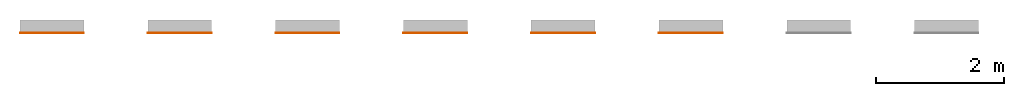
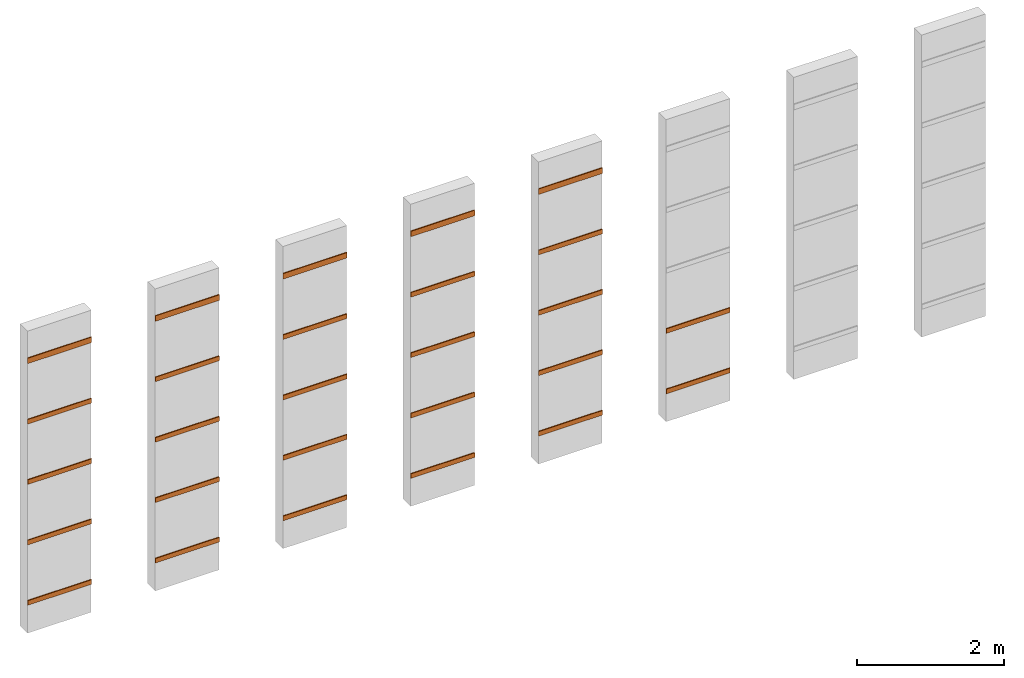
# One storey, part 2 of 4: 27 proxies.
"""IFC2X3 building model written with IfcOpenShell, lengths in millimetres."""

from ifc_helpers import new_model, entity, si_unit, converted_unit, derived_unit, direction, frame, frame_2d, origin, place, context, subcontext, project, spatial, polyline, circle_curve, parameter, trimmed, segment, composite_curve, outline, extrude, type_object, element, save


model = new_model("IFC2X3")

# Units and contexts
model_context = context("Model", 3, precision=0.01, world=origin(), true_north=direction((6.12303176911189e-17, 1.0)))
body_context = subcontext(model_context, "Body", "Model", "MODEL_VIEW")
ifc_project = project(units=[si_unit("LENGTHUNIT", "METRE", prefix="MILLI"), si_unit("AREAUNIT", "SQUARE_METRE"), si_unit("VOLUMEUNIT", "CUBIC_METRE"), converted_unit("PLANEANGLEUNIT", "DEGREE", entity("IfcRatioMeasure", 0.0174532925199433), si_unit("PLANEANGLEUNIT", "RADIAN"), dimensions=[0, 0, 0, 0, 0, 0, 0]), si_unit("MASSUNIT", "GRAM", prefix="KILO"), derived_unit("MASSDENSITYUNIT", [(si_unit("MASSUNIT", "GRAM", prefix="KILO"), 1), (si_unit("LENGTHUNIT", "METRE"), -3)]), derived_unit("MOMENTOFINERTIAUNIT", [(si_unit("LENGTHUNIT", "METRE"), 4)]), si_unit("TIMEUNIT", "SECOND"), si_unit("FREQUENCYUNIT", "HERTZ"), si_unit("THERMODYNAMICTEMPERATUREUNIT", "DEGREE_CELSIUS"), derived_unit("THERMALTRANSMITTANCEUNIT", [(si_unit("MASSUNIT", "GRAM", prefix="KILO"), 1), (si_unit("THERMODYNAMICTEMPERATUREUNIT", "KELVIN"), -1), (si_unit("TIMEUNIT", "SECOND"), -3)]), derived_unit("VOLUMETRICFLOWRATEUNIT", [(si_unit("LENGTHUNIT", "METRE"), 3), (si_unit("TIMEUNIT", "SECOND"), -1)]), si_unit("ELECTRICCURRENTUNIT", "AMPERE"), si_unit("ELECTRICVOLTAGEUNIT", "VOLT"), si_unit("POWERUNIT", "WATT"), si_unit("FORCEUNIT", "NEWTON", prefix="KILO"), si_unit("ILLUMINANCEUNIT", "LUX"), si_unit("LUMINOUSFLUXUNIT", "LUMEN"), si_unit("LUMINOUSINTENSITYUNIT", "CANDELA"), derived_unit("USERDEFINED", [(si_unit("MASSUNIT", "GRAM", prefix="KILO"), -1), (si_unit("LENGTHUNIT", "METRE"), -2), (si_unit("TIMEUNIT", "SECOND"), 3), (si_unit("LUMINOUSFLUXUNIT", "LUMEN"), 1)]), derived_unit("LINEARVELOCITYUNIT", [(si_unit("LENGTHUNIT", "METRE"), 1), (si_unit("TIMEUNIT", "SECOND"), -1)]), si_unit("PRESSUREUNIT", "PASCAL"), derived_unit("USERDEFINED", [(si_unit("LENGTHUNIT", "METRE"), -2), (si_unit("MASSUNIT", "GRAM", prefix="KILO"), 1), (si_unit("TIMEUNIT", "SECOND"), -2)]), derived_unit("LINEARFORCEUNIT", [(si_unit("MASSUNIT", "GRAM", prefix="KILO"), 1), (si_unit("LENGTHUNIT", "METRE"), 1), (si_unit("TIMEUNIT", "SECOND"), -2), (si_unit("LENGTHUNIT", "METRE"), -1)]), derived_unit("PLANARFORCEUNIT", [(si_unit("MASSUNIT", "GRAM", prefix="KILO"), 1), (si_unit("LENGTHUNIT", "METRE"), 1), (si_unit("TIMEUNIT", "SECOND"), -2), (si_unit("LENGTHUNIT", "METRE"), -2)])], contexts=[model_context])

# Site, building, storey
site_placement = place(None, origin())
site = spatial("IfcSite", under=ifc_project, at=site_placement, Name="Default", CompositionType="ELEMENT")
building_placement = place(site_placement, origin())
building = spatial("IfcBuilding", under=site, at=building_placement, CompositionType="ELEMENT")
storey_placement = place(building_placement, origin())
storey = spatial("IfcBuildingStorey", under=building, at=storey_placement, Name="Level 1", CompositionType="ELEMENT", Elevation=0.0)

# Proxies
building_element_proxy_type_1 = type_object("IfcBuildingElementProxyType", Name="Wall Sweep:REVIGRÉS-OMNISTONE-RB-8X45-MATTRECT-BONE", PredefinedType="NOTDEFINED")
proxy_1_placement = place(storey_placement, origin())
element("IfcBuildingElementProxy", 1, at=proxy_1_placement, inside=storey, type_object=building_element_proxy_type_1, Name="Wall Sweep:REVIGRÉS-OMNISTONE-RB-8X45-MATTRECT-BONE", ObjectType="Wall Sweep:REVIGRÉS-OMNISTONE-RB-8X45-MATTRECT-BONE", context=body_context, shape_type="SweptSolid", body=[
    extrude(outline(composite_curve([segment(polyline([(-37.375, -5.24999999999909), (42.6250000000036, -5.24999999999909)]), True, "CONTINUOUS"), segment(trimmed(circle_curve(frame_2d((32.1250000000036, -5.24999999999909), x_axis=(0.0, 1.0)), 10.4999999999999), [parameter(270.0)], [parameter(0.0)], True, "PARAMETER"), True, "CONTINUOUS"), segment(polyline([(32.1250000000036, 5.25), (-37.375, 5.25)]), True, "CONTINUOUS"), segment(polyline([(-37.375, 5.25), (-37.375, -5.24999999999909)]), True, "CONTINUOUS")], self_intersect=False)), frame((5592.00231570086, -6978.36532249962, -17492.2307204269), z_axis=(1.0, 0.0, 0.0), x_axis=(0.0, 0.0, 1.0)), (0.0, 0.0, 1.0), 1000.0),
])
building_element_proxy_type_2 = type_object("IfcBuildingElementProxyType", Name="Wall Sweep:REVIGRÉS-OMNISTONE-RB-8X60-MATTRECT-BONE", PredefinedType="NOTDEFINED")
proxy_2_placement = place(storey_placement, origin())
element("IfcBuildingElementProxy", 2, at=proxy_2_placement, inside=storey, type_object=building_element_proxy_type_2, Name="Wall Sweep:REVIGRÉS-OMNISTONE-RB-8X60-MATTRECT-BONE", ObjectType="Wall Sweep:REVIGRÉS-OMNISTONE-RB-8X60-MATTRECT-BONE", context=body_context, shape_type="SweptSolid", body=[
    extrude(outline(composite_curve([segment(polyline([(-37.5500000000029, -4.89999999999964), (42.4499999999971, -4.89999999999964)]), True, "CONTINUOUS"), segment(trimmed(circle_curve(frame_2d((32.6499999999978, -4.89999999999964), x_axis=(0.0, 1.0)), 9.79999999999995), [parameter(270.0)], [parameter(0.0)], True, "PARAMETER"), True, "CONTINUOUS"), segment(polyline([(32.6499999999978, 4.89999999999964), (-37.5500000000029, 4.89999999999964)]), True, "CONTINUOUS"), segment(polyline([(-37.5500000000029, 4.89999999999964), (-37.5500000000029, -4.89999999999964)]), True, "CONTINUOUS")], self_intersect=False)), frame((5592.00231570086, -6978.01532249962, -16492.0557204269), z_axis=(1.0, 0.0, 0.0), x_axis=(0.0, 0.0, 1.0)), (0.0, 0.0, 1.0), 1000.0),
])
building_element_proxy_type_3 = type_object("IfcBuildingElementProxyType", Name="Wall Sweep:REVIGRÉS-OMNISTONE-RB-8X90-MATTRECT-BONE", PredefinedType="NOTDEFINED")
proxy_3_placement = place(storey_placement, origin())
element("IfcBuildingElementProxy", 3, at=proxy_3_placement, inside=storey, type_object=building_element_proxy_type_3, Name="Wall Sweep:REVIGRÉS-OMNISTONE-RB-8X90-MATTRECT-BONE", ObjectType="Wall Sweep:REVIGRÉS-OMNISTONE-RB-8X90-MATTRECT-BONE", context=body_context, shape_type="SweptSolid", body=[
    extrude(outline(composite_curve([segment(polyline([(-37.3750000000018, -5.24999999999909), (42.625, -5.24999999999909)]), True, "CONTINUOUS"), segment(trimmed(circle_curve(frame_2d((32.125, -5.24999999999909), x_axis=(0.0, 1.0)), 10.4999999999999), [parameter(270.0)], [parameter(0.0)], True, "PARAMETER"), True, "CONTINUOUS"), segment(polyline([(32.125, 5.25), (-37.3750000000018, 5.25)]), True, "CONTINUOUS"), segment(polyline([(-37.3750000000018, 5.25), (-37.3750000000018, -5.24999999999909)]), True, "CONTINUOUS")], self_intersect=False)), frame((5592.00231570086, -6978.36532249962, -15492.2307204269), z_axis=(1.0, 0.0, 0.0), x_axis=(0.0, 0.0, 1.0)), (0.0, 0.0, 1.0), 1000.0),
])
building_element_proxy_type_4 = type_object("IfcBuildingElementProxyType", Name="Wall Sweep:REVIGRÉS-OMNISTONE-RB-8X120-MATTRECT-BONE", PredefinedType="NOTDEFINED")
proxy_4_placement = place(storey_placement, origin())
element("IfcBuildingElementProxy", 4, at=proxy_4_placement, inside=storey, type_object=building_element_proxy_type_4, Name="Wall Sweep:REVIGRÉS-OMNISTONE-RB-8X120-MATTRECT-BONE", ObjectType="Wall Sweep:REVIGRÉS-OMNISTONE-RB-8X120-MATTRECT-BONE", context=body_context, shape_type="SweptSolid", body=[
    extrude(outline(composite_curve([segment(polyline([(-37.5499999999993, -4.89999999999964), (42.4499999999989, -4.89999999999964)]), True, "CONTINUOUS"), segment(trimmed(circle_curve(frame_2d((32.6499999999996, -4.89999999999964), x_axis=(0.0, 1.0)), 9.79999999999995), [parameter(270.0)], [parameter(0.0)], True, "PARAMETER"), True, "CONTINUOUS"), segment(polyline([(32.6499999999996, 4.89999999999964), (-37.5499999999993, 4.89999999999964)]), True, "CONTINUOUS"), segment(polyline([(-37.5499999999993, 4.89999999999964), (-37.5499999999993, -4.89999999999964)]), True, "CONTINUOUS")], self_intersect=False)), frame((5592.00231570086, -6978.01532249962, -14492.0557204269), z_axis=(1.0, 0.0, 0.0), x_axis=(0.0, 0.0, 1.0)), (0.0, 0.0, 1.0), 1000.0),
])
building_element_proxy_type_5 = type_object("IfcBuildingElementProxyType", Name="Wall Sweep:REVIGRÉS-OMNISTONE-RB-9.5X30-MATTRECT-BONE", PredefinedType="NOTDEFINED")
proxy_5_placement = place(storey_placement, origin())
element("IfcBuildingElementProxy", 5, at=proxy_5_placement, inside=storey, type_object=building_element_proxy_type_5, Name="Wall Sweep:REVIGRÉS-OMNISTONE-RB-9.5X30-MATTRECT-BONE", ObjectType="Wall Sweep:REVIGRÉS-OMNISTONE-RB-9.5X30-MATTRECT-BONE", context=body_context, shape_type="SweptSolid", body=[
    extrude(outline(composite_curve([segment(polyline([(-45.0499999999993, -4.89999999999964), (49.9500000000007, -4.89999999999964)]), True, "CONTINUOUS"), segment(trimmed(circle_curve(frame_2d((40.1499999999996, -4.89999999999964), x_axis=(0.0, 1.0)), 9.79999999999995), [parameter(270.0)], [parameter(0.0)], True, "PARAMETER"), True, "CONTINUOUS"), segment(polyline([(40.1499999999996, 4.89999999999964), (-45.0499999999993, 4.89999999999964)]), True, "CONTINUOUS"), segment(polyline([(-45.0499999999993, 4.89999999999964), (-45.0499999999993, -4.89999999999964)]), True, "CONTINUOUS")], self_intersect=False)), frame((5592.00231570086, -6978.01532249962, -13484.5557204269), z_axis=(1.0, 0.0, 0.0), x_axis=(0.0, 0.0, 1.0)), (0.0, 0.0, 1.0), 1000.0),
])
building_element_proxy_type_6 = type_object("IfcBuildingElementProxyType", Name="Wall Sweep:REVIGRÉS-OMNISTONE-RB-8X45-SOFT-BONE", PredefinedType="NOTDEFINED")
proxy_6_placement = place(storey_placement, origin())
element("IfcBuildingElementProxy", 6, at=proxy_6_placement, inside=storey, type_object=building_element_proxy_type_6, Name="Wall Sweep:REVIGRÉS-OMNISTONE-RB-8X45-SOFT-BONE", ObjectType="Wall Sweep:REVIGRÉS-OMNISTONE-RB-8X45-SOFT-BONE", context=body_context, shape_type="SweptSolid", body=[
    extrude(outline(composite_curve([segment(polyline([(-37.375, -5.25), (42.6250000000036, -5.25)]), True, "CONTINUOUS"), segment(trimmed(circle_curve(frame_2d((32.1250000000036, -5.25), x_axis=(0.0, 1.0)), 10.4999999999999), [parameter(270.0)], [parameter(0.0)], True, "PARAMETER"), True, "CONTINUOUS"), segment(polyline([(32.1250000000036, 5.25), (-37.375, 5.25)]), True, "CONTINUOUS"), segment(polyline([(-37.375, 5.25), (-37.375, -5.25)]), True, "CONTINUOUS")], self_intersect=False)), frame((7592.00231570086, -6978.36532249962, -17492.2307204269), z_axis=(1.0, 0.0, 0.0), x_axis=(0.0, 0.0, 1.0)), (0.0, 0.0, 1.0), 1000.0),
])
building_element_proxy_type_7 = type_object("IfcBuildingElementProxyType", Name="Wall Sweep:REVIGRÉS-OMNISTONE-RB-8X60-SOFT-BONE", PredefinedType="NOTDEFINED")
proxy_7_placement = place(storey_placement, origin())
element("IfcBuildingElementProxy", 7, at=proxy_7_placement, inside=storey, type_object=building_element_proxy_type_7, Name="Wall Sweep:REVIGRÉS-OMNISTONE-RB-8X60-SOFT-BONE", ObjectType="Wall Sweep:REVIGRÉS-OMNISTONE-RB-8X60-SOFT-BONE", context=body_context, shape_type="SweptSolid", body=[
    extrude(outline(composite_curve([segment(polyline([(-37.5499999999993, -4.89999999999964), (42.4500000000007, -4.89999999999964)]), True, "CONTINUOUS"), segment(trimmed(circle_curve(frame_2d((32.6499999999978, -4.89999999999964), x_axis=(0.0, 1.0)), 9.79999999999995), [parameter(270.0)], [parameter(0.0)], True, "PARAMETER"), True, "CONTINUOUS"), segment(polyline([(32.6499999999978, 4.89999999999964), (-37.5499999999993, 4.89999999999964)]), True, "CONTINUOUS"), segment(polyline([(-37.5499999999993, 4.89999999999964), (-37.5499999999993, -4.89999999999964)]), True, "CONTINUOUS")], self_intersect=False)), frame((7592.00231570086, -6978.01532249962, -16492.0557204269), z_axis=(1.0, 0.0, 0.0), x_axis=(0.0, 0.0, 1.0)), (0.0, 0.0, 1.0), 1000.0),
])
building_element_proxy_type_8 = type_object("IfcBuildingElementProxyType", Name="Wall Sweep:REVIGRÉS-OMNISTONE-RB-8X90-SOFT-BONE", PredefinedType="NOTDEFINED")
proxy_8_placement = place(storey_placement, origin())
element("IfcBuildingElementProxy", 8, at=proxy_8_placement, inside=storey, type_object=building_element_proxy_type_8, Name="Wall Sweep:REVIGRÉS-OMNISTONE-RB-8X90-SOFT-BONE", ObjectType="Wall Sweep:REVIGRÉS-OMNISTONE-RB-8X90-SOFT-BONE", context=body_context, shape_type="SweptSolid", body=[
    extrude(outline(composite_curve([segment(polyline([(-37.3750000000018, -5.25), (42.625, -5.25)]), True, "CONTINUOUS"), segment(trimmed(circle_curve(frame_2d((32.125, -5.25), x_axis=(0.0, 1.0)), 10.4999999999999), [parameter(270.0)], [parameter(0.0)], True, "PARAMETER"), True, "CONTINUOUS"), segment(polyline([(32.125, 5.25), (-37.3750000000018, 5.25)]), True, "CONTINUOUS"), segment(polyline([(-37.3750000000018, 5.25), (-37.3750000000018, -5.25)]), True, "CONTINUOUS")], self_intersect=False)), frame((7592.00231570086, -6978.36532249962, -15492.2307204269), z_axis=(1.0, 0.0, 0.0), x_axis=(0.0, 0.0, 1.0)), (0.0, 0.0, 1.0), 1000.0),
])
building_element_proxy_type_9 = type_object("IfcBuildingElementProxyType", Name="Wall Sweep:REVIGRÉS-OMNISTONE-RB-8X120-SOFT-BONE", PredefinedType="NOTDEFINED")
proxy_9_placement = place(storey_placement, origin())
element("IfcBuildingElementProxy", 9, at=proxy_9_placement, inside=storey, type_object=building_element_proxy_type_9, Name="Wall Sweep:REVIGRÉS-OMNISTONE-RB-8X120-SOFT-BONE", ObjectType="Wall Sweep:REVIGRÉS-OMNISTONE-RB-8X120-SOFT-BONE", context=body_context, shape_type="SweptSolid", body=[
    extrude(outline(composite_curve([segment(polyline([(-37.5499999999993, -4.89999999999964), (42.4499999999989, -4.89999999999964)]), True, "CONTINUOUS"), segment(trimmed(circle_curve(frame_2d((32.6499999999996, -4.89999999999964), x_axis=(0.0, 1.0)), 9.79999999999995), [parameter(270.0)], [parameter(0.0)], True, "PARAMETER"), True, "CONTINUOUS"), segment(polyline([(32.6499999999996, 4.89999999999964), (-37.5499999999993, 4.89999999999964)]), True, "CONTINUOUS"), segment(polyline([(-37.5499999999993, 4.89999999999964), (-37.5499999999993, -4.89999999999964)]), True, "CONTINUOUS")], self_intersect=False)), frame((7592.00231570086, -6978.01532249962, -14492.0557204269), z_axis=(1.0, 0.0, 0.0), x_axis=(0.0, 0.0, 1.0)), (0.0, 0.0, 1.0), 1000.0),
])
building_element_proxy_type_10 = type_object("IfcBuildingElementProxyType", Name="Wall Sweep:REVIGRÉS-OMNISTONE-RB-9.5X30-SOFT-BONE", PredefinedType="NOTDEFINED")
proxy_10_placement = place(storey_placement, origin())
element("IfcBuildingElementProxy", 10, at=proxy_10_placement, inside=storey, type_object=building_element_proxy_type_10, Name="Wall Sweep:REVIGRÉS-OMNISTONE-RB-9.5X30-SOFT-BONE", ObjectType="Wall Sweep:REVIGRÉS-OMNISTONE-RB-9.5X30-SOFT-BONE", context=body_context, shape_type="SweptSolid", body=[
    extrude(outline(composite_curve([segment(polyline([(-45.0499999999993, -4.89999999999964), (49.9500000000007, -4.89999999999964)]), True, "CONTINUOUS"), segment(trimmed(circle_curve(frame_2d((40.1499999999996, -4.89999999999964), x_axis=(0.0, 1.0)), 9.79999999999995), [parameter(270.0)], [parameter(0.0)], True, "PARAMETER"), True, "CONTINUOUS"), segment(polyline([(40.1499999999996, 4.89999999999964), (-45.0499999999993, 4.89999999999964)]), True, "CONTINUOUS"), segment(polyline([(-45.0499999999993, 4.89999999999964), (-45.0499999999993, -4.89999999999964)]), True, "CONTINUOUS")], self_intersect=False)), frame((7592.00231570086, -6978.01532249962, -13484.5557204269), z_axis=(1.0, 0.0, 0.0), x_axis=(0.0, 0.0, 1.0)), (0.0, 0.0, 1.0), 1000.0),
])
building_element_proxy_type_11 = type_object("IfcBuildingElementProxyType", Name="Wall Sweep:REVIGRÉS-OMNISTONE-RB-8X45-MATTRECT-ICE", PredefinedType="NOTDEFINED")
proxy_11_placement = place(storey_placement, origin())
element("IfcBuildingElementProxy", 11, at=proxy_11_placement, inside=storey, type_object=building_element_proxy_type_11, Name="Wall Sweep:REVIGRÉS-OMNISTONE-RB-8X45-MATTRECT-ICE", ObjectType="Wall Sweep:REVIGRÉS-OMNISTONE-RB-8X45-MATTRECT-ICE", context=body_context, shape_type="SweptSolid", body=[
    extrude(outline(composite_curve([segment(polyline([(-37.375, -5.25), (42.6250000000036, -5.25)]), True, "CONTINUOUS"), segment(trimmed(circle_curve(frame_2d((32.1250000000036, -5.25), x_axis=(0.0, 1.0)), 10.4999999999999), [parameter(270.0)], [parameter(0.0)], True, "PARAMETER"), True, "CONTINUOUS"), segment(polyline([(32.1250000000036, 5.25), (-37.375, 5.25)]), True, "CONTINUOUS"), segment(polyline([(-37.375, 5.25), (-37.375, -5.25)]), True, "CONTINUOUS")], self_intersect=False)), frame((9592.00231570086, -6978.36532249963, -17492.2307204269), z_axis=(1.0, 0.0, 0.0), x_axis=(0.0, 0.0, 1.0)), (0.0, 0.0, 1.0), 1000.0),
])
building_element_proxy_type_12 = type_object("IfcBuildingElementProxyType", Name="Wall Sweep:REVIGRÉS-OMNISTONE-RB-8X60-MATTRECT-ICE", PredefinedType="NOTDEFINED")
proxy_12_placement = place(storey_placement, origin())
element("IfcBuildingElementProxy", 12, at=proxy_12_placement, inside=storey, type_object=building_element_proxy_type_12, Name="Wall Sweep:REVIGRÉS-OMNISTONE-RB-8X60-MATTRECT-ICE", ObjectType="Wall Sweep:REVIGRÉS-OMNISTONE-RB-8X60-MATTRECT-ICE", context=body_context, shape_type="SweptSolid", body=[
    extrude(outline(composite_curve([segment(polyline([(-37.5500000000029, -4.89999999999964), (42.4499999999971, -4.89999999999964)]), True, "CONTINUOUS"), segment(trimmed(circle_curve(frame_2d((32.6499999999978, -4.89999999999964), x_axis=(0.0, 1.0)), 9.79999999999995), [parameter(270.0)], [parameter(0.0)], True, "PARAMETER"), True, "CONTINUOUS"), segment(polyline([(32.6499999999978, 4.90000000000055), (-37.5500000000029, 4.90000000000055)]), True, "CONTINUOUS"), segment(polyline([(-37.5500000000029, 4.90000000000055), (-37.5500000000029, -4.89999999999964)]), True, "CONTINUOUS")], self_intersect=False)), frame((9592.00231570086, -6978.01532249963, -16492.0557204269), z_axis=(1.0, 0.0, 0.0), x_axis=(0.0, 0.0, 1.0)), (0.0, 0.0, 1.0), 1000.0),
])
building_element_proxy_type_13 = type_object("IfcBuildingElementProxyType", Name="Wall Sweep:REVIGRÉS-OMNISTONE-RB-8X90-MATTRECT-ICE", PredefinedType="NOTDEFINED")
proxy_13_placement = place(storey_placement, origin())
element("IfcBuildingElementProxy", 13, at=proxy_13_placement, inside=storey, type_object=building_element_proxy_type_13, Name="Wall Sweep:REVIGRÉS-OMNISTONE-RB-8X90-MATTRECT-ICE", ObjectType="Wall Sweep:REVIGRÉS-OMNISTONE-RB-8X90-MATTRECT-ICE", context=body_context, shape_type="SweptSolid", body=[
    extrude(outline(composite_curve([segment(polyline([(-37.3750000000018, -5.25), (42.625, -5.25)]), True, "CONTINUOUS"), segment(trimmed(circle_curve(frame_2d((32.125, -5.25), x_axis=(0.0, 1.0)), 10.4999999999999), [parameter(270.0)], [parameter(0.0)], True, "PARAMETER"), True, "CONTINUOUS"), segment(polyline([(32.125, 5.25), (-37.3750000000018, 5.25)]), True, "CONTINUOUS"), segment(polyline([(-37.3750000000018, 5.25), (-37.3750000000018, -5.25)]), True, "CONTINUOUS")], self_intersect=False)), frame((9592.00231570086, -6978.36532249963, -15492.2307204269), z_axis=(1.0, 0.0, 0.0), x_axis=(0.0, 0.0, 1.0)), (0.0, 0.0, 1.0), 1000.0),
])
building_element_proxy_type_14 = type_object("IfcBuildingElementProxyType", Name="Wall Sweep:REVIGRÉS-OMNISTONE-RB-8X120-MATTRECT-ICE", PredefinedType="NOTDEFINED")
proxy_14_placement = place(storey_placement, origin())
element("IfcBuildingElementProxy", 14, at=proxy_14_placement, inside=storey, type_object=building_element_proxy_type_14, Name="Wall Sweep:REVIGRÉS-OMNISTONE-RB-8X120-MATTRECT-ICE", ObjectType="Wall Sweep:REVIGRÉS-OMNISTONE-RB-8X120-MATTRECT-ICE", context=body_context, shape_type="SweptSolid", body=[
    extrude(outline(composite_curve([segment(polyline([(-37.5499999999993, -4.89999999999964), (42.4499999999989, -4.89999999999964)]), True, "CONTINUOUS"), segment(trimmed(circle_curve(frame_2d((32.6499999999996, -4.89999999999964), x_axis=(0.0, 1.0)), 9.79999999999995), [parameter(270.0)], [parameter(0.0)], True, "PARAMETER"), True, "CONTINUOUS"), segment(polyline([(32.6499999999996, 4.90000000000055), (-37.5499999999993, 4.90000000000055)]), True, "CONTINUOUS"), segment(polyline([(-37.5499999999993, 4.90000000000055), (-37.5499999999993, -4.89999999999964)]), True, "CONTINUOUS")], self_intersect=False)), frame((9592.00231570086, -6978.01532249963, -14492.0557204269), z_axis=(1.0, 0.0, 0.0), x_axis=(0.0, 0.0, 1.0)), (0.0, 0.0, 1.0), 1000.0),
])
building_element_proxy_type_15 = type_object("IfcBuildingElementProxyType", Name="Wall Sweep:REVIGRÉS-OMNISTONE-RB-9.5X30-MATTRECT-ICE", PredefinedType="NOTDEFINED")
proxy_15_placement = place(storey_placement, origin())
element("IfcBuildingElementProxy", 15, at=proxy_15_placement, inside=storey, type_object=building_element_proxy_type_15, Name="Wall Sweep:REVIGRÉS-OMNISTONE-RB-9.5X30-MATTRECT-ICE", ObjectType="Wall Sweep:REVIGRÉS-OMNISTONE-RB-9.5X30-MATTRECT-ICE", context=body_context, shape_type="SweptSolid", body=[
    extrude(outline(composite_curve([segment(polyline([(-45.0499999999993, -4.89999999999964), (49.9500000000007, -4.89999999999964)]), True, "CONTINUOUS"), segment(trimmed(circle_curve(frame_2d((40.1499999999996, -4.89999999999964), x_axis=(0.0, 1.0)), 9.79999999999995), [parameter(270.0)], [parameter(0.0)], True, "PARAMETER"), True, "CONTINUOUS"), segment(polyline([(40.1499999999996, 4.90000000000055), (-45.0499999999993, 4.90000000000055)]), True, "CONTINUOUS"), segment(polyline([(-45.0499999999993, 4.90000000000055), (-45.0499999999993, -4.89999999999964)]), True, "CONTINUOUS")], self_intersect=False)), frame((9592.00231570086, -6978.01532249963, -13484.5557204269), z_axis=(1.0, 0.0, 0.0), x_axis=(0.0, 0.0, 1.0)), (0.0, 0.0, 1.0), 1000.0),
])
building_element_proxy_type_16 = type_object("IfcBuildingElementProxyType", Name="Wall Sweep:REVIGRÉS-OMNISTONE-RB-8X45-SOFT-ICE", PredefinedType="NOTDEFINED")
proxy_16_placement = place(storey_placement, origin())
element("IfcBuildingElementProxy", 16, at=proxy_16_placement, inside=storey, type_object=building_element_proxy_type_16, Name="Wall Sweep:REVIGRÉS-OMNISTONE-RB-8X45-SOFT-ICE", ObjectType="Wall Sweep:REVIGRÉS-OMNISTONE-RB-8X45-SOFT-ICE", context=body_context, shape_type="SweptSolid", body=[
    extrude(outline(composite_curve([segment(polyline([(-37.375, -5.25), (42.6250000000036, -5.25)]), True, "CONTINUOUS"), segment(trimmed(circle_curve(frame_2d((32.1250000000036, -5.25), x_axis=(0.0, 1.0)), 10.4999999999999), [parameter(270.0)], [parameter(0.0)], True, "PARAMETER"), True, "CONTINUOUS"), segment(polyline([(32.1250000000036, 5.25), (-37.375, 5.25)]), True, "CONTINUOUS"), segment(polyline([(-37.375, 5.25), (-37.375, -5.25)]), True, "CONTINUOUS")], self_intersect=False)), frame((11592.0023157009, -6978.36532249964, -17492.2307204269), z_axis=(1.0, 0.0, 0.0), x_axis=(0.0, 0.0, 1.0)), (0.0, 0.0, 1.0), 1000.0),
])
building_element_proxy_type_17 = type_object("IfcBuildingElementProxyType", Name="Wall Sweep:REVIGRÉS-OMNISTONE-RB-8X60-SOFT-ICE", PredefinedType="NOTDEFINED")
proxy_17_placement = place(storey_placement, origin())
element("IfcBuildingElementProxy", 17, at=proxy_17_placement, inside=storey, type_object=building_element_proxy_type_17, Name="Wall Sweep:REVIGRÉS-OMNISTONE-RB-8X60-SOFT-ICE", ObjectType="Wall Sweep:REVIGRÉS-OMNISTONE-RB-8X60-SOFT-ICE", context=body_context, shape_type="SweptSolid", body=[
    extrude(outline(composite_curve([segment(polyline([(-37.5500000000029, -4.89999999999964), (42.4499999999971, -4.89999999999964)]), True, "CONTINUOUS"), segment(trimmed(circle_curve(frame_2d((32.6499999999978, -4.89999999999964), x_axis=(0.0, 1.0)), 9.79999999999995), [parameter(270.0)], [parameter(0.0)], True, "PARAMETER"), True, "CONTINUOUS"), segment(polyline([(32.6499999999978, 4.90000000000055), (-37.5500000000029, 4.90000000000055)]), True, "CONTINUOUS"), segment(polyline([(-37.5500000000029, 4.90000000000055), (-37.5500000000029, -4.89999999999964)]), True, "CONTINUOUS")], self_intersect=False)), frame((11592.0023157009, -6978.01532249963, -16492.0557204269), z_axis=(1.0, 0.0, 0.0), x_axis=(0.0, 0.0, 1.0)), (0.0, 0.0, 1.0), 1000.0),
])
building_element_proxy_type_18 = type_object("IfcBuildingElementProxyType", Name="Wall Sweep:REVIGRÉS-OMNISTONE-RB-8X90-SOFT-ICE", PredefinedType="NOTDEFINED")
proxy_18_placement = place(storey_placement, origin())
element("IfcBuildingElementProxy", 18, at=proxy_18_placement, inside=storey, type_object=building_element_proxy_type_18, Name="Wall Sweep:REVIGRÉS-OMNISTONE-RB-8X90-SOFT-ICE", ObjectType="Wall Sweep:REVIGRÉS-OMNISTONE-RB-8X90-SOFT-ICE", context=body_context, shape_type="SweptSolid", body=[
    extrude(outline(composite_curve([segment(polyline([(-37.3750000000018, -5.25), (42.625, -5.25)]), True, "CONTINUOUS"), segment(trimmed(circle_curve(frame_2d((32.125, -5.25), x_axis=(0.0, 1.0)), 10.4999999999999), [parameter(270.0)], [parameter(0.0)], True, "PARAMETER"), True, "CONTINUOUS"), segment(polyline([(32.125, 5.25), (-37.3750000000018, 5.25)]), True, "CONTINUOUS"), segment(polyline([(-37.3750000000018, 5.25), (-37.3750000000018, -5.25)]), True, "CONTINUOUS")], self_intersect=False)), frame((11592.0023157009, -6978.36532249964, -15492.2307204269), z_axis=(1.0, 0.0, 0.0), x_axis=(0.0, 0.0, 1.0)), (0.0, 0.0, 1.0), 1000.0),
])
building_element_proxy_type_19 = type_object("IfcBuildingElementProxyType", Name="Wall Sweep:REVIGRÉS-OMNISTONE-RB-8X120-SOFT-ICE", PredefinedType="NOTDEFINED")
proxy_19_placement = place(storey_placement, origin())
element("IfcBuildingElementProxy", 19, at=proxy_19_placement, inside=storey, type_object=building_element_proxy_type_19, Name="Wall Sweep:REVIGRÉS-OMNISTONE-RB-8X120-SOFT-ICE", ObjectType="Wall Sweep:REVIGRÉS-OMNISTONE-RB-8X120-SOFT-ICE", context=body_context, shape_type="SweptSolid", body=[
    extrude(outline(composite_curve([segment(polyline([(-37.5499999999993, -4.89999999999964), (42.4499999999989, -4.89999999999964)]), True, "CONTINUOUS"), segment(trimmed(circle_curve(frame_2d((32.6499999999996, -4.89999999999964), x_axis=(0.0, 1.0)), 9.79999999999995), [parameter(270.0)], [parameter(0.0)], True, "PARAMETER"), True, "CONTINUOUS"), segment(polyline([(32.6499999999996, 4.90000000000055), (-37.5499999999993, 4.90000000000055)]), True, "CONTINUOUS"), segment(polyline([(-37.5499999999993, 4.90000000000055), (-37.5499999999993, -4.89999999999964)]), True, "CONTINUOUS")], self_intersect=False)), frame((11592.0023157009, -6978.01532249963, -14492.0557204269), z_axis=(1.0, 0.0, 0.0), x_axis=(0.0, 0.0, 1.0)), (0.0, 0.0, 1.0), 1000.0),
])
building_element_proxy_type_20 = type_object("IfcBuildingElementProxyType", Name="Wall Sweep:REVIGRÉS-OMNISTONE-RB-9.5X30-SOFT-ICE", PredefinedType="NOTDEFINED")
proxy_20_placement = place(storey_placement, origin())
element("IfcBuildingElementProxy", 20, at=proxy_20_placement, inside=storey, type_object=building_element_proxy_type_20, Name="Wall Sweep:REVIGRÉS-OMNISTONE-RB-9.5X30-SOFT-ICE", ObjectType="Wall Sweep:REVIGRÉS-OMNISTONE-RB-9.5X30-SOFT-ICE", context=body_context, shape_type="SweptSolid", body=[
    extrude(outline(composite_curve([segment(polyline([(-45.0500000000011, -4.89999999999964), (49.9499999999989, -4.89999999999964)]), True, "CONTINUOUS"), segment(trimmed(circle_curve(frame_2d((40.1499999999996, -4.89999999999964), x_axis=(0.0, 1.0)), 9.79999999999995), [parameter(270.0)], [parameter(0.0)], True, "PARAMETER"), True, "CONTINUOUS"), segment(polyline([(40.1499999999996, 4.90000000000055), (-45.0500000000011, 4.90000000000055)]), True, "CONTINUOUS"), segment(polyline([(-45.0500000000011, 4.90000000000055), (-45.0500000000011, -4.89999999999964)]), True, "CONTINUOUS")], self_intersect=False)), frame((11592.0023157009, -6978.01532249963, -13484.5557204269), z_axis=(1.0, 0.0, 0.0), x_axis=(0.0, 0.0, 1.0)), (0.0, 0.0, 1.0), 1000.0),
])
building_element_proxy_type_21 = type_object("IfcBuildingElementProxyType", Name="Wall Sweep:REVIGRÉS-OMNISTONE-RB-8X45-MATTRECT-IRON", PredefinedType="NOTDEFINED")
proxy_21_placement = place(storey_placement, origin())
element("IfcBuildingElementProxy", 21, at=proxy_21_placement, inside=storey, type_object=building_element_proxy_type_21, Name="Wall Sweep:REVIGRÉS-OMNISTONE-RB-8X45-MATTRECT-IRON", ObjectType="Wall Sweep:REVIGRÉS-OMNISTONE-RB-8X45-MATTRECT-IRON", context=body_context, shape_type="SweptSolid", body=[
    extrude(outline(composite_curve([segment(polyline([(-37.375, -5.25), (42.6250000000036, -5.25)]), True, "CONTINUOUS"), segment(trimmed(circle_curve(frame_2d((32.1250000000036, -5.25), x_axis=(0.0, 1.0)), 10.4999999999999), [parameter(270.0)], [parameter(0.0)], True, "PARAMETER"), True, "CONTINUOUS"), segment(polyline([(32.1250000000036, 5.25), (-37.375, 5.25)]), True, "CONTINUOUS"), segment(polyline([(-37.375, 5.25), (-37.375, -5.25)]), True, "CONTINUOUS")], self_intersect=False)), frame((13592.0023157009, -6978.36532249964, -17492.2307204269), z_axis=(1.0, 0.0, 0.0), x_axis=(0.0, 0.0, 1.0)), (0.0, 0.0, 1.0), 1000.0),
])
building_element_proxy_type_22 = type_object("IfcBuildingElementProxyType", Name="Wall Sweep:REVIGRÉS-OMNISTONE-RB-8X60-MATTRECT-IRON", PredefinedType="NOTDEFINED")
proxy_22_placement = place(storey_placement, origin())
element("IfcBuildingElementProxy", 22, at=proxy_22_placement, inside=storey, type_object=building_element_proxy_type_22, Name="Wall Sweep:REVIGRÉS-OMNISTONE-RB-8X60-MATTRECT-IRON", ObjectType="Wall Sweep:REVIGRÉS-OMNISTONE-RB-8X60-MATTRECT-IRON", context=body_context, shape_type="SweptSolid", body=[
    extrude(outline(composite_curve([segment(polyline([(-37.5500000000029, -4.90000000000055), (42.4499999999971, -4.90000000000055)]), True, "CONTINUOUS"), segment(trimmed(circle_curve(frame_2d((32.6499999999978, -4.90000000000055), x_axis=(0.0, 1.0)), 9.79999999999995), [parameter(270.0)], [parameter(0.0)], True, "PARAMETER"), True, "CONTINUOUS"), segment(polyline([(32.6499999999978, 4.89999999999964), (-37.5500000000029, 4.89999999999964)]), True, "CONTINUOUS"), segment(polyline([(-37.5500000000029, 4.89999999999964), (-37.5500000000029, -4.90000000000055)]), True, "CONTINUOUS")], self_intersect=False)), frame((13592.0023157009, -6978.01532249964, -16492.0557204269), z_axis=(1.0, 0.0, 0.0), x_axis=(0.0, 0.0, 1.0)), (0.0, 0.0, 1.0), 1000.0),
])
building_element_proxy_type_23 = type_object("IfcBuildingElementProxyType", Name="Wall Sweep:REVIGRÉS-OMNISTONE-RB-8X90-MATTRECT-IRON", PredefinedType="NOTDEFINED")
proxy_23_placement = place(storey_placement, origin())
element("IfcBuildingElementProxy", 23, at=proxy_23_placement, inside=storey, type_object=building_element_proxy_type_23, Name="Wall Sweep:REVIGRÉS-OMNISTONE-RB-8X90-MATTRECT-IRON", ObjectType="Wall Sweep:REVIGRÉS-OMNISTONE-RB-8X90-MATTRECT-IRON", context=body_context, shape_type="SweptSolid", body=[
    extrude(outline(composite_curve([segment(polyline([(-37.375, -5.25), (42.625, -5.25)]), True, "CONTINUOUS"), segment(trimmed(circle_curve(frame_2d((32.125, -5.25), x_axis=(0.0, 1.0)), 10.4999999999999), [parameter(270.0)], [parameter(0.0)], True, "PARAMETER"), True, "CONTINUOUS"), segment(polyline([(32.125, 5.25), (-37.375, 5.25)]), True, "CONTINUOUS"), segment(polyline([(-37.375, 5.25), (-37.375, -5.25)]), True, "CONTINUOUS")], self_intersect=False)), frame((13592.0023157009, -6978.36532249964, -15492.2307204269), z_axis=(1.0, 0.0, 0.0), x_axis=(0.0, 0.0, 1.0)), (0.0, 0.0, 1.0), 1000.0),
])
building_element_proxy_type_24 = type_object("IfcBuildingElementProxyType", Name="Wall Sweep:REVIGRÉS-OMNISTONE-RB-8X120-MATTRECT-IRON", PredefinedType="NOTDEFINED")
proxy_24_placement = place(storey_placement, origin())
element("IfcBuildingElementProxy", 24, at=proxy_24_placement, inside=storey, type_object=building_element_proxy_type_24, Name="Wall Sweep:REVIGRÉS-OMNISTONE-RB-8X120-MATTRECT-IRON", ObjectType="Wall Sweep:REVIGRÉS-OMNISTONE-RB-8X120-MATTRECT-IRON", context=body_context, shape_type="SweptSolid", body=[
    extrude(outline(composite_curve([segment(polyline([(-37.5499999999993, -4.90000000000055), (42.4499999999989, -4.90000000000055)]), True, "CONTINUOUS"), segment(trimmed(circle_curve(frame_2d((32.6499999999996, -4.90000000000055), x_axis=(0.0, 1.0)), 9.79999999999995), [parameter(270.0)], [parameter(0.0)], True, "PARAMETER"), True, "CONTINUOUS"), segment(polyline([(32.6499999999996, 4.89999999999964), (-37.5499999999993, 4.89999999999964)]), True, "CONTINUOUS"), segment(polyline([(-37.5499999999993, 4.89999999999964), (-37.5499999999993, -4.90000000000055)]), True, "CONTINUOUS")], self_intersect=False)), frame((13592.0023157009, -6978.01532249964, -14492.0557204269), z_axis=(1.0, 0.0, 0.0), x_axis=(0.0, 0.0, 1.0)), (0.0, 0.0, 1.0), 1000.0),
])
building_element_proxy_type_25 = type_object("IfcBuildingElementProxyType", Name="Wall Sweep:REVIGRÉS-OMNISTONE-RB-9.5X30-MATTRECT-IRON", PredefinedType="NOTDEFINED")
proxy_25_placement = place(storey_placement, origin())
element("IfcBuildingElementProxy", 25, at=proxy_25_placement, inside=storey, type_object=building_element_proxy_type_25, Name="Wall Sweep:REVIGRÉS-OMNISTONE-RB-9.5X30-MATTRECT-IRON", ObjectType="Wall Sweep:REVIGRÉS-OMNISTONE-RB-9.5X30-MATTRECT-IRON", context=body_context, shape_type="SweptSolid", body=[
    extrude(outline(composite_curve([segment(polyline([(-45.0499999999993, -4.90000000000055), (49.9500000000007, -4.90000000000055)]), True, "CONTINUOUS"), segment(trimmed(circle_curve(frame_2d((40.1499999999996, -4.90000000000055), x_axis=(0.0, 1.0)), 9.79999999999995), [parameter(270.0)], [parameter(0.0)], True, "PARAMETER"), True, "CONTINUOUS"), segment(polyline([(40.1499999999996, 4.89999999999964), (-45.0499999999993, 4.89999999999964)]), True, "CONTINUOUS"), segment(polyline([(-45.0499999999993, 4.89999999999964), (-45.0499999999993, -4.90000000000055)]), True, "CONTINUOUS")], self_intersect=False)), frame((13592.0023157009, -6978.01532249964, -13484.5557204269), z_axis=(1.0, 0.0, 0.0), x_axis=(0.0, 0.0, 1.0)), (0.0, 0.0, 1.0), 1000.0),
])
building_element_proxy_type_26 = type_object("IfcBuildingElementProxyType", Name="Wall Sweep:REVIGRÉS-OMNISTONE-RB-8X45-SOFT-IRON", PredefinedType="NOTDEFINED")
proxy_26_placement = place(storey_placement, origin())
element("IfcBuildingElementProxy", 26, at=proxy_26_placement, inside=storey, type_object=building_element_proxy_type_26, Name="Wall Sweep:REVIGRÉS-OMNISTONE-RB-8X45-SOFT-IRON", ObjectType="Wall Sweep:REVIGRÉS-OMNISTONE-RB-8X45-SOFT-IRON", context=body_context, shape_type="SweptSolid", body=[
    extrude(outline(composite_curve([segment(polyline([(-37.375, -5.25), (42.6250000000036, -5.25)]), True, "CONTINUOUS"), segment(trimmed(circle_curve(frame_2d((32.1250000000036, -5.25), x_axis=(0.0, 1.0)), 10.4999999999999), [parameter(270.0)], [parameter(0.0)], True, "PARAMETER"), True, "CONTINUOUS"), segment(polyline([(32.1250000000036, 5.25), (-37.375, 5.25)]), True, "CONTINUOUS"), segment(polyline([(-37.375, 5.25), (-37.375, -5.25)]), True, "CONTINUOUS")], self_intersect=False)), frame((15592.0023157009, -6978.36532249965, -17492.2307204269), z_axis=(1.0, 0.0, 0.0), x_axis=(0.0, 0.0, 1.0)), (0.0, 0.0, 1.0), 1000.0),
])
building_element_proxy_type_27 = type_object("IfcBuildingElementProxyType", Name="Wall Sweep:REVIGRÉS-OMNISTONE-RB-8X60-SOFT-IRON", PredefinedType="NOTDEFINED")
proxy_27_placement = place(storey_placement, origin())
element("IfcBuildingElementProxy", 27, at=proxy_27_placement, inside=storey, type_object=building_element_proxy_type_27, Name="Wall Sweep:REVIGRÉS-OMNISTONE-RB-8X60-SOFT-IRON", ObjectType="Wall Sweep:REVIGRÉS-OMNISTONE-RB-8X60-SOFT-IRON", context=body_context, shape_type="SweptSolid", body=[
    extrude(outline(composite_curve([segment(polyline([(-37.5500000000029, -4.90000000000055), (42.4499999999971, -4.90000000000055)]), True, "CONTINUOUS"), segment(trimmed(circle_curve(frame_2d((32.6499999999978, -4.90000000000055), x_axis=(0.0, 1.0)), 9.79999999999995), [parameter(270.0)], [parameter(0.0)], True, "PARAMETER"), True, "CONTINUOUS"), segment(polyline([(32.6499999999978, 4.89999999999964), (-37.5500000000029, 4.89999999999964)]), True, "CONTINUOUS"), segment(polyline([(-37.5500000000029, 4.89999999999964), (-37.5500000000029, -4.90000000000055)]), True, "CONTINUOUS")], self_intersect=False)), frame((15592.0023157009, -6978.01532249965, -16492.0557204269), z_axis=(1.0, 0.0, 0.0), x_axis=(0.0, 0.0, 1.0)), (0.0, 0.0, 1.0), 1000.0),
])

save(model, "model.ifc")
